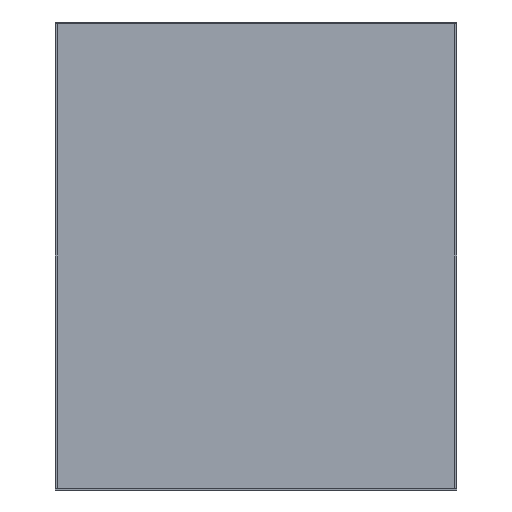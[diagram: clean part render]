
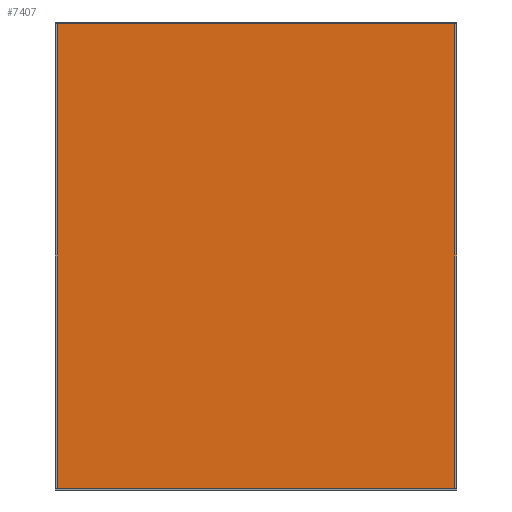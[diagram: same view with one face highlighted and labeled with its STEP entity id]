
A CAD part, front view. The second image highlights one B-rep face of the part: STEP entity #7407.
In plain terms, the highlighted planar face has unit normal (0, -1, 0).
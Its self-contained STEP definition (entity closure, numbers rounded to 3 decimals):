
#7191 = EDGE_CURVE('',#7192,#7194,#7196,.T.);
#7192 = VERTEX_POINT('',#7193);
#7193 = CARTESIAN_POINT('',(-0.155,-0.096,0.002)
  );
#7194 = VERTEX_POINT('',#7195);
#7195 = CARTESIAN_POINT('',(-0.155,-0.096,
    0.364));
#7196 = SURFACE_CURVE('',#7197,(#7201,#7213),.PCURVE_S1.);
#7197 = LINE('',#7198,#7199);
#7198 = CARTESIAN_POINT('',(-0.155,-0.096,0.002)
  );
#7199 = VECTOR('',#7200,1.);
#7200 = DIRECTION('',(0.,0.,1.));
#7201 = PCURVE('',#7202,#7207);
#7202 = PLANE('',#7203);
#7203 = AXIS2_PLACEMENT_3D('',#7204,#7205,#7206);
#7204 = CARTESIAN_POINT('',(-0.155,-0.096,0.002)
  );
#7205 = DIRECTION('',(1.,0.,0.));
#7206 = DIRECTION('',(0.,0.,1.));
#7207 = DEFINITIONAL_REPRESENTATION('',(#7208),#7212);
#7208 = LINE('',#7209,#7210);
#7209 = CARTESIAN_POINT('',(0.,0.));
#7210 = VECTOR('',#7211,1.);
#7211 = DIRECTION('',(1.,0.));
#7212 = ( GEOMETRIC_REPRESENTATION_CONTEXT(2) 
PARAMETRIC_REPRESENTATION_CONTEXT() REPRESENTATION_CONTEXT('2D SPACE',''
  ) );
#7213 = PCURVE('',#7214,#7219);
#7214 = PLANE('',#7215);
#7215 = AXIS2_PLACEMENT_3D('',#7216,#7217,#7218);
#7216 = CARTESIAN_POINT('',(-0.155,-0.096,0.002)
  );
#7217 = DIRECTION('',(0.,1.,0.));
#7218 = DIRECTION('',(0.,0.,1.));
#7219 = DEFINITIONAL_REPRESENTATION('',(#7220),#7224);
#7220 = LINE('',#7221,#7222);
#7221 = CARTESIAN_POINT('',(0.,0.));
#7222 = VECTOR('',#7223,1.);
#7223 = DIRECTION('',(1.,0.));
#7224 = ( GEOMETRIC_REPRESENTATION_CONTEXT(2) 
PARAMETRIC_REPRESENTATION_CONTEXT() REPRESENTATION_CONTEXT('2D SPACE',''
  ) );
#7242 = PLANE('',#7243);
#7243 = AXIS2_PLACEMENT_3D('',#7244,#7245,#7246);
#7244 = CARTESIAN_POINT('',(-0.155,-0.096,0.002)
  );
#7245 = DIRECTION('',(0.,0.,1.));
#7246 = DIRECTION('',(1.,0.,0.));
#7296 = PLANE('',#7297);
#7297 = AXIS2_PLACEMENT_3D('',#7298,#7299,#7300);
#7298 = CARTESIAN_POINT('',(-0.155,-0.096,
    0.364));
#7299 = DIRECTION('',(0.,0.,1.));
#7300 = DIRECTION('',(1.,0.,0.));
#7311 = EDGE_CURVE('',#7312,#7314,#7316,.T.);
#7312 = VERTEX_POINT('',#7313);
#7313 = CARTESIAN_POINT('',(0.155,-0.096,0.002));
#7314 = VERTEX_POINT('',#7315);
#7315 = CARTESIAN_POINT('',(0.155,-0.096,
    0.364));
#7316 = SURFACE_CURVE('',#7317,(#7321,#7333),.PCURVE_S1.);
#7317 = LINE('',#7318,#7319);
#7318 = CARTESIAN_POINT('',(0.155,-0.096,0.002));
#7319 = VECTOR('',#7320,1.);
#7320 = DIRECTION('',(0.,0.,1.));
#7321 = PCURVE('',#7322,#7327);
#7322 = PLANE('',#7323);
#7323 = AXIS2_PLACEMENT_3D('',#7324,#7325,#7326);
#7324 = CARTESIAN_POINT('',(0.155,-0.096,0.002));
#7325 = DIRECTION('',(1.,0.,0.));
#7326 = DIRECTION('',(0.,0.,1.));
#7327 = DEFINITIONAL_REPRESENTATION('',(#7328),#7332);
#7328 = LINE('',#7329,#7330);
#7329 = CARTESIAN_POINT('',(0.,0.));
#7330 = VECTOR('',#7331,1.);
#7331 = DIRECTION('',(1.,0.));
#7332 = ( GEOMETRIC_REPRESENTATION_CONTEXT(2) 
PARAMETRIC_REPRESENTATION_CONTEXT() REPRESENTATION_CONTEXT('2D SPACE',''
  ) );
#7333 = PCURVE('',#7214,#7334);
#7334 = DEFINITIONAL_REPRESENTATION('',(#7335),#7339);
#7335 = LINE('',#7336,#7337);
#7336 = CARTESIAN_POINT('',(0.,0.31));
#7337 = VECTOR('',#7338,1.);
#7338 = DIRECTION('',(1.,0.));
#7339 = ( GEOMETRIC_REPRESENTATION_CONTEXT(2) 
PARAMETRIC_REPRESENTATION_CONTEXT() REPRESENTATION_CONTEXT('2D SPACE',''
  ) );
#7407 = ADVANCED_FACE('',(#7408),#7214,.F.);
#7408 = FACE_BOUND('',#7409,.F.);
#7409 = EDGE_LOOP('',(#7410,#7431,#7432,#7453));
#7410 = ORIENTED_EDGE('',*,*,#7411,.F.);
#7411 = EDGE_CURVE('',#7192,#7312,#7412,.T.);
#7412 = SURFACE_CURVE('',#7413,(#7417,#7424),.PCURVE_S1.);
#7413 = LINE('',#7414,#7415);
#7414 = CARTESIAN_POINT('',(-0.155,-0.096,0.002)
  );
#7415 = VECTOR('',#7416,1.);
#7416 = DIRECTION('',(1.,0.,0.));
#7417 = PCURVE('',#7214,#7418);
#7418 = DEFINITIONAL_REPRESENTATION('',(#7419),#7423);
#7419 = LINE('',#7420,#7421);
#7420 = CARTESIAN_POINT('',(0.,0.));
#7421 = VECTOR('',#7422,1.);
#7422 = DIRECTION('',(0.,1.));
#7423 = ( GEOMETRIC_REPRESENTATION_CONTEXT(2) 
PARAMETRIC_REPRESENTATION_CONTEXT() REPRESENTATION_CONTEXT('2D SPACE',''
  ) );
#7424 = PCURVE('',#7242,#7425);
#7425 = DEFINITIONAL_REPRESENTATION('',(#7426),#7430);
#7426 = LINE('',#7427,#7428);
#7427 = CARTESIAN_POINT('',(0.,0.));
#7428 = VECTOR('',#7429,1.);
#7429 = DIRECTION('',(1.,0.));
#7430 = ( GEOMETRIC_REPRESENTATION_CONTEXT(2) 
PARAMETRIC_REPRESENTATION_CONTEXT() REPRESENTATION_CONTEXT('2D SPACE',''
  ) );
#7431 = ORIENTED_EDGE('',*,*,#7191,.T.);
#7432 = ORIENTED_EDGE('',*,*,#7433,.T.);
#7433 = EDGE_CURVE('',#7194,#7314,#7434,.T.);
#7434 = SURFACE_CURVE('',#7435,(#7439,#7446),.PCURVE_S1.);
#7435 = LINE('',#7436,#7437);
#7436 = CARTESIAN_POINT('',(-0.155,-0.096,
    0.364));
#7437 = VECTOR('',#7438,1.);
#7438 = DIRECTION('',(1.,0.,0.));
#7439 = PCURVE('',#7214,#7440);
#7440 = DEFINITIONAL_REPRESENTATION('',(#7441),#7445);
#7441 = LINE('',#7442,#7443);
#7442 = CARTESIAN_POINT('',(0.362,0.));
#7443 = VECTOR('',#7444,1.);
#7444 = DIRECTION('',(0.,1.));
#7445 = ( GEOMETRIC_REPRESENTATION_CONTEXT(2) 
PARAMETRIC_REPRESENTATION_CONTEXT() REPRESENTATION_CONTEXT('2D SPACE',''
  ) );
#7446 = PCURVE('',#7296,#7447);
#7447 = DEFINITIONAL_REPRESENTATION('',(#7448),#7452);
#7448 = LINE('',#7449,#7450);
#7449 = CARTESIAN_POINT('',(0.,0.));
#7450 = VECTOR('',#7451,1.);
#7451 = DIRECTION('',(1.,0.));
#7452 = ( GEOMETRIC_REPRESENTATION_CONTEXT(2) 
PARAMETRIC_REPRESENTATION_CONTEXT() REPRESENTATION_CONTEXT('2D SPACE',''
  ) );
#7453 = ORIENTED_EDGE('',*,*,#7311,.F.);
